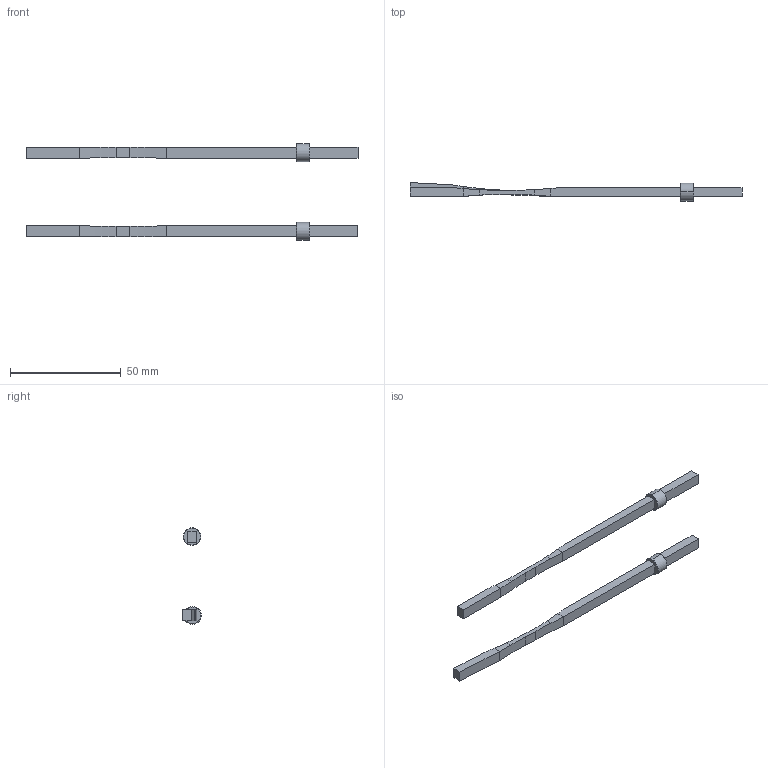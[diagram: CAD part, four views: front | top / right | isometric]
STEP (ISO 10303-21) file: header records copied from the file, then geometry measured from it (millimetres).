
FILE_DESCRIPTION (( 'STEP AP214' ), '1' );
FILE_NAME ('PF-054150-.STEP', '2013-07-26T14:47:09', ( '' ), ( '' ), 'SwSTEP 2.0', 'SolidWorks 2011', '' );
FILE_SCHEMA (( 'AUTOMOTIVE_DESIGN' ));
Length unit declared in the file: millimetre
Products named in the file (5): PF-054150-20130117-; 9MP-054150-RECTO-20130117; 9MP-054150-20130117; PF-054150-; 9FP040508-20130117
Assembly tree (5 placements, depth 3):
  PF-054150-
    9MP-054150-20130117
    PF-054150-20130117-
      9FP040508-20130117
      9MP-054150-RECTO-20130117
    9FP040508-20130117
Bounding box: 150.02 x 8.48 x 43.53 mm (x, y, z)
Volume: 5647.6 mm3; surface area: 5801.5 mm2
Topology: 4 solids, 4 shells, 74 faces, 188 edges, 120 vertices
Faces by surface type: plane 40, cylinder 22, cone 12
Entity records: 2439 total; most frequent: CARTESIAN_POINT 398, DIRECTION 310, ORIENTED_EDGE 304, EDGE_CURVE 152, AXIS2_PLACEMENT_3D 107, VERTEX_POINT 99, LINE 96, VECTOR 96
